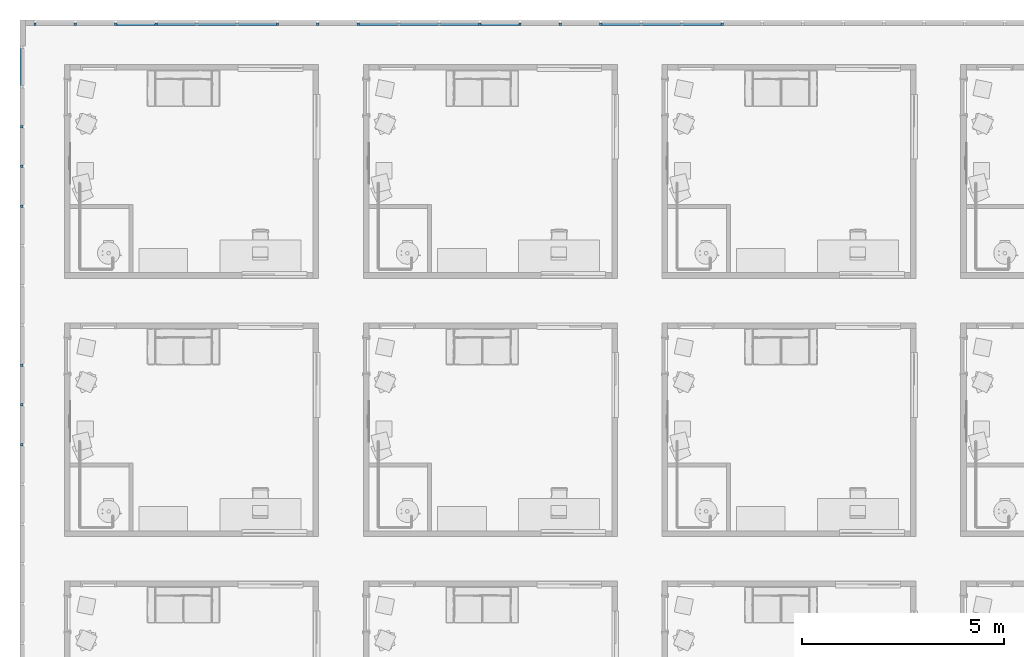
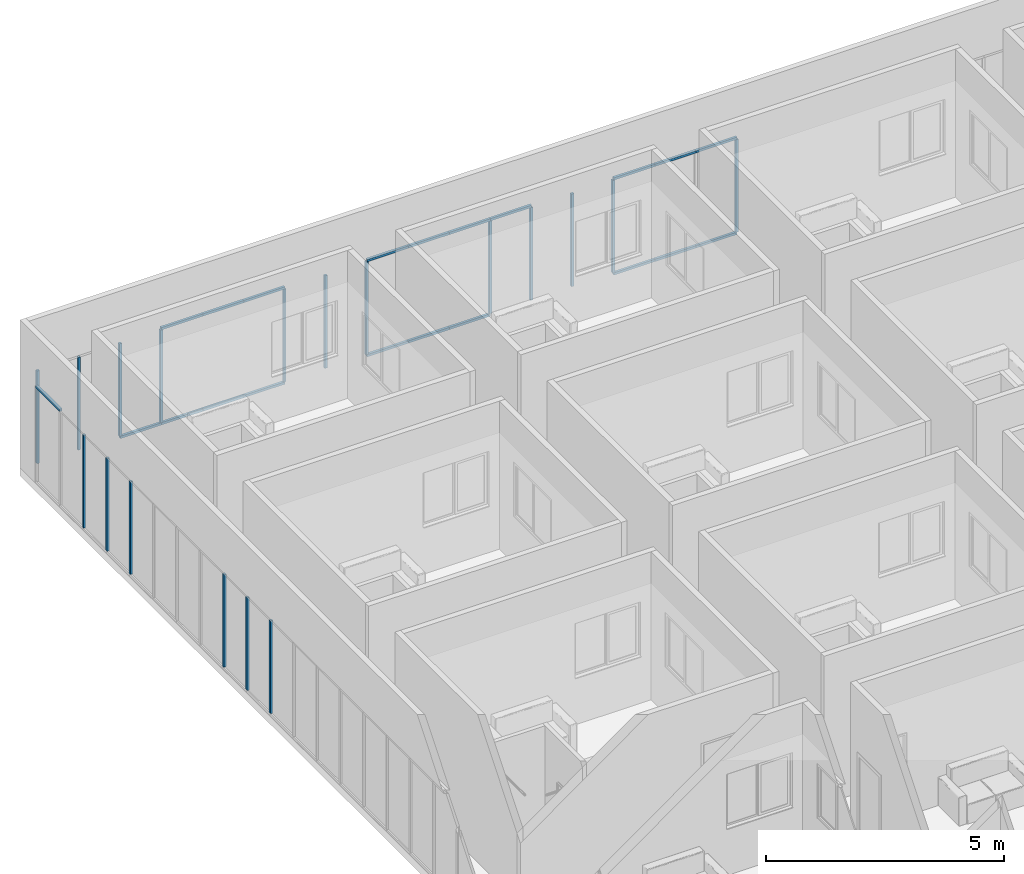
# One storey, part 2 of 72: 39 members, 2 elements without a shape of their own.
"""IFC4 building model written with IfcOpenShell, lengths in centimetres."""

from ifc_helpers import new_model, entity, si_unit, converted_unit, derived_unit, direction, frame, origin, place, context, subcontext, project, spatial, indexed_curve, outline, extrude, source, transform, mapped, material, type_object, type_shapes, element, aggregate, save


model = new_model("IFC4")

# Units and contexts
model_context = context("Model", 3, precision=0.001, world=origin(), true_north=direction((6.123233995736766e-17, 1.0)))
body_context = subcontext(model_context, "Body", "Model", "MODEL_VIEW")
ifc_project = project(units=[si_unit("LENGTHUNIT", "METRE", prefix="CENTI"), si_unit("AREAUNIT", "SQUARE_METRE"), si_unit("VOLUMEUNIT", "CUBIC_METRE"), derived_unit("THERMALTRANSMITTANCEUNIT", [(si_unit("MASSUNIT", "GRAM", prefix="KILO"), 1), (si_unit("THERMODYNAMICTEMPERATUREUNIT", "KELVIN"), -1), (si_unit("TIMEUNIT", "SECOND"), -3)]), converted_unit("PLANEANGLEUNIT", "DEGREE", entity("IfcPlaneAngleMeasure", 0.017453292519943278), si_unit("PLANEANGLEUNIT", "RADIAN"), dimensions=[0, 0, 0, 0, 0, 0, 0]), derived_unit("MASSDENSITYUNIT", [(si_unit("MASSUNIT", "GRAM", prefix="KILO"), 1), (si_unit("LENGTHUNIT", "METRE"), -3)]), derived_unit("VAPORPERMEABILITYUNIT", [(si_unit("LENGTHUNIT", "METRE"), -1), (si_unit("TIMEUNIT", "SECOND"), 1)]), derived_unit("USERDEFINED", [(si_unit("MASSUNIT", "GRAM", prefix="KILO"), 1), (si_unit("TIMEUNIT", "SECOND"), -3), (si_unit("LENGTHUNIT", "METRE"), 3), (si_unit("ELECTRICCURRENTUNIT", "AMPERE"), -2)]), derived_unit("SPECIFICHEATCAPACITYUNIT", [(si_unit("THERMODYNAMICTEMPERATUREUNIT", "KELVIN"), -1), (si_unit("LENGTHUNIT", "METRE"), 2), (si_unit("TIMEUNIT", "SECOND"), -2)]), derived_unit("THERMALCONDUCTANCEUNIT", [(si_unit("MASSUNIT", "GRAM", prefix="KILO"), 1), (si_unit("THERMODYNAMICTEMPERATUREUNIT", "KELVIN"), -1), (si_unit("TIMEUNIT", "SECOND"), -3), (si_unit("LENGTHUNIT", "METRE"), 1)]), si_unit("PRESSUREUNIT", "PASCAL"), derived_unit("MODULUSOFELASTICITYUNIT", [(si_unit("MASSUNIT", "GRAM", prefix="KILO"), 1), (si_unit("LENGTHUNIT", "METRE"), -1), (si_unit("TIMEUNIT", "SECOND"), -2)]), derived_unit("THERMALEXPANSIONCOEFFICIENTUNIT", [(si_unit("THERMODYNAMICTEMPERATUREUNIT", "KELVIN"), -1)])], contexts=[model_context])

# Site, building, storey
site_placement = place(None, origin())
site = spatial("IfcSite", under=ifc_project, at=site_placement, Name="Default", CompositionType="ELEMENT")
building_placement = place(site_placement, origin())
building = spatial("IfcBuilding", under=site, at=building_placement, Name="IDS Escape Game Building", CompositionType="ELEMENT")
storey_placement = place(building_placement, frame((0.0, 0.0, 800.0)))
storey = spatial("IfcBuildingStorey", under=building, at=storey_placement, Name="02_Second Floor", CompositionType="ELEMENT", Elevation=800.0)

# Curtain wall, members
curtain_wall_type = type_object("IfcCurtainWallType", Name="Curtain Wall:ARC_31.3_CWA_LIB_bandraam vast 100cm - profiel 60x60_gen_BERSnl", PredefinedType="NOTDEFINED")
curtain_wall_1_placement = place(storey_placement, frame((0.0, 0.0, -800.0)))
curtain_wall_1 = element("IfcCurtainWall", 1, at=curtain_wall_1_placement, inside=storey, type_object=curtain_wall_type, Name="Curtain Wall:ARC_31.3_CWA_LIB_bandraam vast 100cm - profiel 60x60_gen_BERSnl", ObjectType="Curtain Wall:ARC_31.3_CWA_LIB_bandraam vast 100cm - profiel 60x60_gen_BERSnl", PredefinedType="NOTDEFINED")
ifc_material = material(Name="<Unnamed>")
member_type_1 = type_object("IfcMemberType", Name="Rectangular Mullion:30-_Stijl_Rechthoek_Midden_B60xD60", PredefinedType="MULLION", material=ifc_material)
shared_shape_1 = source(origin(), body_context, "Body", "SweptSolid", [
    extrude(outline(indexed_curve([(-3.0, -3.0), (3.0, -3.0), (3.0, 3.0), (-3.0, 3.0), (-3.0, -3.0)], self_intersect=False)), frame((-3.0, 3.0, -99.84313725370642), z_axis=(0.0, 0.0, 1.0), x_axis=(-1.0, 0.0, 0.0)), (0.0, 0.0, 1.0), 99.84313725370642),
])
type_shapes(member_type_1, [shared_shape_1])
member_1_placement = place(curtain_wall_1_placement, frame((319.3725490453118, 3182.0, 1050.0), z_axis=(1.0, 0.0, 0.0), x_axis=(0.0, 0.0, 1.0)))
member_1 = element("IfcMember", 2, at=member_1_placement, type_object=member_type_1, material=ifc_material, Name="Rectangular Mullion:30-_Stijl_Rechthoek_Midden_B60xD60", ObjectType="Rectangular Mullion:30-_Stijl_Rechthoek_Midden_B60xD60", PredefinedType="MULLION", context=body_context, shape_type="MappedRepresentation", body=[
    mapped(shared_shape_1, transform((0.0, 0.0, 0.0), scale=1.0)),
])
member_2_placement = place(curtain_wall_1_placement, frame((419.2156862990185, 3182.0, 1050.0), z_axis=(1.0, 0.0, 0.0), x_axis=(0.0, 0.0, 1.0)))
member_2 = element("IfcMember", 3, at=member_2_placement, type_object=member_type_1, material=ifc_material, Name="Rectangular Mullion:30-_Stijl_Rechthoek_Midden_B60xD60", ObjectType="Rectangular Mullion:30-_Stijl_Rechthoek_Midden_B60xD60", PredefinedType="MULLION", context=body_context, shape_type="MappedRepresentation", body=[
    mapped(shared_shape_1, transform((0.0, 0.0, 0.0), scale=1.0)),
])
member_3_placement = place(curtain_wall_1_placement, frame((519.0588235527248, 3182.0, 1050.0), z_axis=(1.0, 0.0, 0.0), x_axis=(0.0, 0.0, 1.0)))
member_3 = element("IfcMember", 4, at=member_3_placement, type_object=member_type_1, material=ifc_material, Name="Rectangular Mullion:30-_Stijl_Rechthoek_Midden_B60xD60", ObjectType="Rectangular Mullion:30-_Stijl_Rechthoek_Midden_B60xD60", PredefinedType="MULLION", context=body_context, shape_type="MappedRepresentation", body=[
    mapped(shared_shape_1, transform((0.0, 0.0, 0.0), scale=1.0)),
])
member_4_placement = place(curtain_wall_1_placement, frame((818.5882353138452, 3182.0, 1050.0), z_axis=(1.0, 0.0, 0.0), x_axis=(0.0, 0.0, 1.0)))
member_4 = element("IfcMember", 5, at=member_4_placement, type_object=member_type_1, material=ifc_material, Name="Rectangular Mullion:30-_Stijl_Rechthoek_Midden_B60xD60", ObjectType="Rectangular Mullion:30-_Stijl_Rechthoek_Midden_B60xD60", PredefinedType="MULLION", context=body_context, shape_type="MappedRepresentation", body=[
    mapped(shared_shape_1, transform((0.0, 0.0, 0.0), scale=1.0)),
])
member_5_placement = place(curtain_wall_1_placement, frame((918.4313725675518, 3182.0, 1050.0), z_axis=(1.0, 0.0, 0.0), x_axis=(0.0, 0.0, 1.0)))
member_5 = element("IfcMember", 6, at=member_5_placement, type_object=member_type_1, material=ifc_material, Name="Rectangular Mullion:30-_Stijl_Rechthoek_Midden_B60xD60", ObjectType="Rectangular Mullion:30-_Stijl_Rechthoek_Midden_B60xD60", PredefinedType="MULLION", context=body_context, shape_type="MappedRepresentation", body=[
    mapped(shared_shape_1, transform((0.0, 0.0, 0.0), scale=1.0)),
])
member_6_placement = place(curtain_wall_1_placement, frame((1018.2745098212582, 3182.0, 1050.0), z_axis=(1.0, 0.0, 0.0), x_axis=(0.0, 0.0, 1.0)))
member_6 = element("IfcMember", 7, at=member_6_placement, type_object=member_type_1, material=ifc_material, Name="Rectangular Mullion:30-_Stijl_Rechthoek_Midden_B60xD60", ObjectType="Rectangular Mullion:30-_Stijl_Rechthoek_Midden_B60xD60", PredefinedType="MULLION", context=body_context, shape_type="MappedRepresentation", body=[
    mapped(shared_shape_1, transform((0.0, 0.0, 0.0), scale=1.0)),
])
member_7_placement = place(curtain_wall_1_placement, frame((1118.1176470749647, 3182.0, 1050.0), z_axis=(1.0, 0.0, 0.0), x_axis=(0.0, 0.0, 1.0)))
member_7 = element("IfcMember", 8, at=member_7_placement, type_object=member_type_1, material=ifc_material, Name="Rectangular Mullion:30-_Stijl_Rechthoek_Midden_B60xD60", ObjectType="Rectangular Mullion:30-_Stijl_Rechthoek_Midden_B60xD60", PredefinedType="MULLION", context=body_context, shape_type="MappedRepresentation", body=[
    mapped(shared_shape_1, transform((0.0, 0.0, 0.0), scale=1.0)),
])
member_8_placement = place(curtain_wall_1_placement, frame((1417.6470588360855, 3182.0, 1050.0), z_axis=(1.0, 0.0, 0.0), x_axis=(0.0, 0.0, 1.0)))
member_8 = element("IfcMember", 9, at=member_8_placement, type_object=member_type_1, material=ifc_material, Name="Rectangular Mullion:30-_Stijl_Rechthoek_Midden_B60xD60", ObjectType="Rectangular Mullion:30-_Stijl_Rechthoek_Midden_B60xD60", PredefinedType="MULLION", context=body_context, shape_type="MappedRepresentation", body=[
    mapped(shared_shape_1, transform((0.0, 0.0, 0.0), scale=1.0)),
])
member_9_placement = place(curtain_wall_1_placement, frame((1517.490196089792, 3182.0, 1050.0), z_axis=(1.0, 0.0, 0.0), x_axis=(0.0, 0.0, 1.0)))
member_9 = element("IfcMember", 10, at=member_9_placement, type_object=member_type_1, material=ifc_material, Name="Rectangular Mullion:30-_Stijl_Rechthoek_Midden_B60xD60", ObjectType="Rectangular Mullion:30-_Stijl_Rechthoek_Midden_B60xD60", PredefinedType="MULLION", context=body_context, shape_type="MappedRepresentation", body=[
    mapped(shared_shape_1, transform((0.0, 0.0, 0.0), scale=1.0)),
])
member_10_placement = place(curtain_wall_1_placement, frame((1617.3333333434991, 3182.0, 1050.0), z_axis=(1.0, 0.0, 0.0), x_axis=(0.0, 0.0, 1.0)))
member_10 = element("IfcMember", 11, at=member_10_placement, type_object=member_type_1, material=ifc_material, Name="Rectangular Mullion:30-_Stijl_Rechthoek_Midden_B60xD60", ObjectType="Rectangular Mullion:30-_Stijl_Rechthoek_Midden_B60xD60", PredefinedType="MULLION", context=body_context, shape_type="MappedRepresentation", body=[
    mapped(shared_shape_1, transform((0.0, 0.0, 0.0), scale=1.0)),
])
member_type_2 = type_object("IfcMemberType", Name="Rectangular Mullion:30-_Stijl_Rechthoek_Midden_B60xD60", PredefinedType="MULLION", material=ifc_material)
shared_shape_2 = source(origin(), body_context, "Body", "SweptSolid", [
    extrude(outline(indexed_curve([(-3.0, -3.0), (3.0, -3.0), (3.0, 3.0), (-3.0, 3.0), (-3.0, -3.0)], self_intersect=False)), frame((-3.0, 3.0, -99.84313725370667), z_axis=(0.0, 0.0, 1.0), x_axis=(-1.0, 0.0, 0.0)), (0.0, 0.0, 1.0), 99.84313725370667),
])
type_shapes(member_type_2, [shared_shape_2])
member_11_placement = place(curtain_wall_1_placement, frame((119.68627453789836, 3182.0, 800.0), z_axis=(-1.0, 0.0, 0.0), x_axis=(0.0, 0.0, -1.0)))
member_11 = element("IfcMember", 12, at=member_11_placement, type_object=member_type_2, material=ifc_material, Name="Rectangular Mullion:30-_Stijl_Rechthoek_Midden_B60xD60", ObjectType="Rectangular Mullion:30-_Stijl_Rechthoek_Midden_B60xD60", PredefinedType="MULLION", context=body_context, shape_type="MappedRepresentation", body=[
    mapped(shared_shape_2, transform((0.0, 0.0, 0.0), scale=1.0)),
])
member_12_placement = place(curtain_wall_1_placement, frame((219.529411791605, 3182.0, 800.0), z_axis=(-1.0, 0.0, 0.0), x_axis=(0.0, 0.0, -1.0)))
member_12 = element("IfcMember", 13, at=member_12_placement, type_object=member_type_2, material=ifc_material, Name="Rectangular Mullion:30-_Stijl_Rechthoek_Midden_B60xD60", ObjectType="Rectangular Mullion:30-_Stijl_Rechthoek_Midden_B60xD60", PredefinedType="MULLION", context=body_context, shape_type="MappedRepresentation", body=[
    mapped(shared_shape_2, transform((0.0, 0.0, 0.0), scale=1.0)),
])
member_13_placement = place(curtain_wall_1_placement, frame((319.3725490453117, 3182.0, 800.0), z_axis=(-1.0, 0.0, 0.0), x_axis=(0.0, 0.0, -1.0)))
member_13 = element("IfcMember", 14, at=member_13_placement, type_object=member_type_2, material=ifc_material, Name="Rectangular Mullion:30-_Stijl_Rechthoek_Midden_B60xD60", ObjectType="Rectangular Mullion:30-_Stijl_Rechthoek_Midden_B60xD60", PredefinedType="MULLION", context=body_context, shape_type="MappedRepresentation", body=[
    mapped(shared_shape_2, transform((0.0, 0.0, 0.0), scale=1.0)),
])
member_14_placement = place(curtain_wall_1_placement, frame((419.2156862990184, 3182.0, 800.0), z_axis=(-1.0, 0.0, 0.0), x_axis=(0.0, 0.0, -1.0)))
member_14 = element("IfcMember", 15, at=member_14_placement, type_object=member_type_2, material=ifc_material, Name="Rectangular Mullion:30-_Stijl_Rechthoek_Midden_B60xD60", ObjectType="Rectangular Mullion:30-_Stijl_Rechthoek_Midden_B60xD60", PredefinedType="MULLION", context=body_context, shape_type="MappedRepresentation", body=[
    mapped(shared_shape_2, transform((0.0, 0.0, 0.0), scale=1.0)),
])
member_15_placement = place(curtain_wall_1_placement, frame((718.7450980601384, 3182.0, 800.0), z_axis=(-1.0, 0.0, 0.0), x_axis=(0.0, 0.0, -1.0)))
member_15 = element("IfcMember", 16, at=member_15_placement, type_object=member_type_2, material=ifc_material, Name="Rectangular Mullion:30-_Stijl_Rechthoek_Midden_B60xD60", ObjectType="Rectangular Mullion:30-_Stijl_Rechthoek_Midden_B60xD60", PredefinedType="MULLION", context=body_context, shape_type="MappedRepresentation", body=[
    mapped(shared_shape_2, transform((0.0, 0.0, 0.0), scale=1.0)),
])
member_16_placement = place(curtain_wall_1_placement, frame((818.5882353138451, 3182.0, 800.0), z_axis=(-1.0, 0.0, 0.0), x_axis=(0.0, 0.0, -1.0)))
member_16 = element("IfcMember", 17, at=member_16_placement, type_object=member_type_2, material=ifc_material, Name="Rectangular Mullion:30-_Stijl_Rechthoek_Midden_B60xD60", ObjectType="Rectangular Mullion:30-_Stijl_Rechthoek_Midden_B60xD60", PredefinedType="MULLION", context=body_context, shape_type="MappedRepresentation", body=[
    mapped(shared_shape_2, transform((0.0, 0.0, 0.0), scale=1.0)),
])
member_17_placement = place(curtain_wall_1_placement, frame((918.4313725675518, 3182.0, 800.0), z_axis=(-1.0, 0.0, 0.0), x_axis=(0.0, 0.0, -1.0)))
member_17 = element("IfcMember", 18, at=member_17_placement, type_object=member_type_2, material=ifc_material, Name="Rectangular Mullion:30-_Stijl_Rechthoek_Midden_B60xD60", ObjectType="Rectangular Mullion:30-_Stijl_Rechthoek_Midden_B60xD60", PredefinedType="MULLION", context=body_context, shape_type="MappedRepresentation", body=[
    mapped(shared_shape_2, transform((0.0, 0.0, 0.0), scale=1.0)),
])
member_18_placement = place(curtain_wall_1_placement, frame((1317.8039215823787, 3182.0, 800.0), z_axis=(-1.0, 0.0, 0.0), x_axis=(0.0, 0.0, -1.0)))
member_18 = element("IfcMember", 19, at=member_18_placement, type_object=member_type_2, material=ifc_material, Name="Rectangular Mullion:30-_Stijl_Rechthoek_Midden_B60xD60", ObjectType="Rectangular Mullion:30-_Stijl_Rechthoek_Midden_B60xD60", PredefinedType="MULLION", context=body_context, shape_type="MappedRepresentation", body=[
    mapped(shared_shape_2, transform((0.0, 0.0, 0.0), scale=1.0)),
])
member_19_placement = place(curtain_wall_1_placement, frame((1417.6470588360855, 3182.0, 800.0), z_axis=(-1.0, 0.0, 0.0), x_axis=(0.0, 0.0, -1.0)))
member_19 = element("IfcMember", 20, at=member_19_placement, type_object=member_type_2, material=ifc_material, Name="Rectangular Mullion:30-_Stijl_Rechthoek_Midden_B60xD60", ObjectType="Rectangular Mullion:30-_Stijl_Rechthoek_Midden_B60xD60", PredefinedType="MULLION", context=body_context, shape_type="MappedRepresentation", body=[
    mapped(shared_shape_2, transform((0.0, 0.0, 0.0), scale=1.0)),
])
member_20_placement = place(curtain_wall_1_placement, frame((1517.4901960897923, 3182.0, 800.0), z_axis=(-1.0, 0.0, 0.0), x_axis=(0.0, 0.0, -1.0)))
member_20 = element("IfcMember", 21, at=member_20_placement, type_object=member_type_2, material=ifc_material, Name="Rectangular Mullion:30-_Stijl_Rechthoek_Midden_B60xD60", ObjectType="Rectangular Mullion:30-_Stijl_Rechthoek_Midden_B60xD60", PredefinedType="MULLION", context=body_context, shape_type="MappedRepresentation", body=[
    mapped(shared_shape_2, transform((0.0, 0.0, 0.0), scale=1.0)),
])
member_type_3 = type_object("IfcMemberType", Name="Rectangular Mullion:30-_Stijl_Rechthoek_Midden_B60xD60", PredefinedType="MULLION", material=ifc_material)
shared_shape_3 = source(origin(), body_context, "Body", "SweptSolid", [
    extrude(outline(indexed_curve([(-3.0, -3.0), (3.0, -3.0), (3.0, 3.0), (-3.0, 3.0), (-3.0, -3.0)], self_intersect=False)), frame((-3.0, 3.0, -238.0), z_axis=(0.0, 0.0, 1.0), x_axis=(-1.0, 0.0, 0.0)), (0.0, 0.0, 1.0), 238.00000000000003),
])
type_shapes(member_type_3, [shared_shape_3])
member_21_placement = place(curtain_wall_1_placement, frame((-83.0, 3182.0, 1044.0), z_axis=(0.0, 0.0, 1.0), x_axis=(-1.0, 0.0, 0.0)))
member_21 = element("IfcMember", 22, at=member_21_placement, type_object=member_type_3, material=ifc_material, Name="Rectangular Mullion:30-_Stijl_Rechthoek_Midden_B60xD60", ObjectType="Rectangular Mullion:30-_Stijl_Rechthoek_Midden_B60xD60", PredefinedType="MULLION", context=body_context, shape_type="MappedRepresentation", body=[
    mapped(shared_shape_3, transform((0.0, 0.0, 0.0), scale=1.0)),
])
member_type_4 = type_object("IfcMemberType", Name="Rectangular Mullion:30-_Stijl_Rechthoek_Midden_B60xD60", PredefinedType="MULLION", material=ifc_material)
shared_shape_4 = source(origin(), body_context, "Body", "SweptSolid", [
    extrude(outline(indexed_curve([(-3.0, -3.0), (3.0, -3.0), (3.0, 3.0), (-3.0, 3.0), (-3.0, -3.0)], self_intersect=False)), frame((0.0, 3.0, -238.0), z_axis=(0.0, 0.0, 1.0), x_axis=(-1.0, 0.0, 0.0)), (0.0, 0.0, 1.0), 238.00000000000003),
])
type_shapes(member_type_4, [shared_shape_4])
member_22_placement = place(curtain_wall_1_placement, frame((19.843137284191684, 3182.0, 806.0), z_axis=(0.0, 0.0, -1.0), x_axis=(1.0, 0.0, 0.0)))
member_22 = element("IfcMember", 23, at=member_22_placement, type_object=member_type_4, material=ifc_material, Name="Rectangular Mullion:30-_Stijl_Rechthoek_Midden_B60xD60", ObjectType="Rectangular Mullion:30-_Stijl_Rechthoek_Midden_B60xD60", PredefinedType="MULLION", context=body_context, shape_type="MappedRepresentation", body=[
    mapped(shared_shape_4, transform((0.0, 0.0, 0.0), scale=1.0)),
])
member_23_placement = place(curtain_wall_1_placement, frame((119.68627453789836, 3182.0, 806.0), z_axis=(0.0, 0.0, -1.0), x_axis=(1.0, 0.0, 0.0)))
member_23 = element("IfcMember", 24, at=member_23_placement, type_object=member_type_4, material=ifc_material, Name="Rectangular Mullion:30-_Stijl_Rechthoek_Midden_B60xD60", ObjectType="Rectangular Mullion:30-_Stijl_Rechthoek_Midden_B60xD60", PredefinedType="MULLION", context=body_context, shape_type="MappedRepresentation", body=[
    mapped(shared_shape_4, transform((0.0, 0.0, 0.0), scale=1.0)),
])
member_24_placement = place(curtain_wall_1_placement, frame((219.52941179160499, 3182.0, 806.0), z_axis=(0.0, 0.0, -1.0), x_axis=(1.0, 0.0, 0.0)))
member_24 = element("IfcMember", 25, at=member_24_placement, type_object=member_type_4, material=ifc_material, Name="Rectangular Mullion:30-_Stijl_Rechthoek_Midden_B60xD60", ObjectType="Rectangular Mullion:30-_Stijl_Rechthoek_Midden_B60xD60", PredefinedType="MULLION", context=body_context, shape_type="MappedRepresentation", body=[
    mapped(shared_shape_4, transform((0.0, 0.0, 0.0), scale=1.0)),
])
member_25_placement = place(curtain_wall_1_placement, frame((519.0588235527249, 3182.0, 806.0), z_axis=(0.0, 0.0, -1.0), x_axis=(1.0, 0.0, 0.0)))
member_25 = element("IfcMember", 26, at=member_25_placement, type_object=member_type_4, material=ifc_material, Name="Rectangular Mullion:30-_Stijl_Rechthoek_Midden_B60xD60", ObjectType="Rectangular Mullion:30-_Stijl_Rechthoek_Midden_B60xD60", PredefinedType="MULLION", context=body_context, shape_type="MappedRepresentation", body=[
    mapped(shared_shape_4, transform((0.0, 0.0, 0.0), scale=1.0)),
])
member_26_placement = place(curtain_wall_1_placement, frame((618.9019608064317, 3182.0, 806.0), z_axis=(0.0, 0.0, -1.0), x_axis=(1.0, 0.0, 0.0)))
member_26 = element("IfcMember", 27, at=member_26_placement, type_object=member_type_4, material=ifc_material, Name="Rectangular Mullion:30-_Stijl_Rechthoek_Midden_B60xD60", ObjectType="Rectangular Mullion:30-_Stijl_Rechthoek_Midden_B60xD60", PredefinedType="MULLION", context=body_context, shape_type="MappedRepresentation", body=[
    mapped(shared_shape_4, transform((0.0, 0.0, 0.0), scale=1.0)),
])
member_27_placement = place(curtain_wall_1_placement, frame((718.7450980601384, 3182.0, 806.0), z_axis=(0.0, 0.0, -1.0), x_axis=(1.0, 0.0, 0.0)))
member_27 = element("IfcMember", 28, at=member_27_placement, type_object=member_type_4, material=ifc_material, Name="Rectangular Mullion:30-_Stijl_Rechthoek_Midden_B60xD60", ObjectType="Rectangular Mullion:30-_Stijl_Rechthoek_Midden_B60xD60", PredefinedType="MULLION", context=body_context, shape_type="MappedRepresentation", body=[
    mapped(shared_shape_4, transform((0.0, 0.0, 0.0), scale=1.0)),
])
member_28_placement = place(curtain_wall_1_placement, frame((1018.2745098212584, 3182.0, 806.0), z_axis=(0.0, 0.0, -1.0), x_axis=(1.0, 0.0, 0.0)))
member_28 = element("IfcMember", 29, at=member_28_placement, type_object=member_type_4, material=ifc_material, Name="Rectangular Mullion:30-_Stijl_Rechthoek_Midden_B60xD60", ObjectType="Rectangular Mullion:30-_Stijl_Rechthoek_Midden_B60xD60", PredefinedType="MULLION", context=body_context, shape_type="MappedRepresentation", body=[
    mapped(shared_shape_4, transform((0.0, 0.0, 0.0), scale=1.0)),
])
member_29_placement = place(curtain_wall_1_placement, frame((1118.1176470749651, 3182.0, 806.0), z_axis=(0.0, 0.0, -1.0), x_axis=(1.0, 0.0, 0.0)))
member_29 = element("IfcMember", 30, at=member_29_placement, type_object=member_type_4, material=ifc_material, Name="Rectangular Mullion:30-_Stijl_Rechthoek_Midden_B60xD60", ObjectType="Rectangular Mullion:30-_Stijl_Rechthoek_Midden_B60xD60", PredefinedType="MULLION", context=body_context, shape_type="MappedRepresentation", body=[
    mapped(shared_shape_4, transform((0.0, 0.0, 0.0), scale=1.0)),
])
member_30_placement = place(curtain_wall_1_placement, frame((1217.960784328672, 3182.0, 806.0), z_axis=(0.0, 0.0, -1.0), x_axis=(1.0, 0.0, 0.0)))
member_30 = element("IfcMember", 31, at=member_30_placement, type_object=member_type_4, material=ifc_material, Name="Rectangular Mullion:30-_Stijl_Rechthoek_Midden_B60xD60", ObjectType="Rectangular Mullion:30-_Stijl_Rechthoek_Midden_B60xD60", PredefinedType="MULLION", context=body_context, shape_type="MappedRepresentation", body=[
    mapped(shared_shape_4, transform((0.0, 0.0, 0.0), scale=1.0)),
])
member_31_placement = place(curtain_wall_1_placement, frame((1317.8039215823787, 3182.0, 806.0), z_axis=(0.0, 0.0, -1.0), x_axis=(1.0, 0.0, 0.0)))
member_31 = element("IfcMember", 32, at=member_31_placement, type_object=member_type_4, material=ifc_material, Name="Rectangular Mullion:30-_Stijl_Rechthoek_Midden_B60xD60", ObjectType="Rectangular Mullion:30-_Stijl_Rechthoek_Midden_B60xD60", PredefinedType="MULLION", context=body_context, shape_type="MappedRepresentation", body=[
    mapped(shared_shape_4, transform((0.0, 0.0, 0.0), scale=1.0)),
])
member_32_placement = place(curtain_wall_1_placement, frame((1617.3333333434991, 3182.0, 806.0), z_axis=(0.0, 0.0, -1.0), x_axis=(1.0, 0.0, 0.0)))
member_32 = element("IfcMember", 33, at=member_32_placement, type_object=member_type_4, material=ifc_material, Name="Rectangular Mullion:30-_Stijl_Rechthoek_Midden_B60xD60", ObjectType="Rectangular Mullion:30-_Stijl_Rechthoek_Midden_B60xD60", PredefinedType="MULLION", context=body_context, shape_type="MappedRepresentation", body=[
    mapped(shared_shape_4, transform((0.0, 0.0, 0.0), scale=1.0)),
])
aggregate(curtain_wall_1, [member_1, member_2, member_3, member_4, member_5, member_6, member_7, member_8, member_9, member_10, member_11, member_12, member_13, member_14, member_15, member_16, member_17, member_18, member_19, member_20, member_21, member_22, member_23, member_24, member_25, member_26, member_27, member_28, member_29, member_30, member_31, member_32])

curtain_wall_2_placement = place(storey_placement, frame((0.0, 0.0, -800.0)))
curtain_wall_2 = element("IfcCurtainWall", 34, at=curtain_wall_2_placement, inside=storey, type_object=curtain_wall_type, Name="Curtain Wall:ARC_31.3_CWA_LIB_bandraam vast 100cm - profiel 60x60_gen_BERSnl", ObjectType="Curtain Wall:ARC_31.3_CWA_LIB_bandraam vast 100cm - profiel 60x60_gen_BERSnl", PredefinedType="NOTDEFINED")
member_33_placement = place(curtain_wall_2_placement, frame((-110.0, 2925.61290319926, 806.0), z_axis=(0.0, 0.0, -1.0), x_axis=(0.0, -1.0, 0.0)))
member_33 = element("IfcMember", 35, at=member_33_placement, type_object=member_type_4, material=ifc_material, Name="Rectangular Mullion:30-_Stijl_Rechthoek_Midden_B60xD60", ObjectType="Rectangular Mullion:30-_Stijl_Rechthoek_Midden_B60xD60", PredefinedType="MULLION", context=body_context, shape_type="MappedRepresentation", body=[
    mapped(shared_shape_4, transform((0.0, 0.0, 0.0), scale=1.0)),
])
member_34_placement = place(curtain_wall_2_placement, frame((-110.0, 2827.4193548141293, 806.0), z_axis=(0.0, 0.0, -1.0), x_axis=(0.0, -1.0, 0.0)))
member_34 = element("IfcMember", 36, at=member_34_placement, type_object=member_type_4, material=ifc_material, Name="Rectangular Mullion:30-_Stijl_Rechthoek_Midden_B60xD60", ObjectType="Rectangular Mullion:30-_Stijl_Rechthoek_Midden_B60xD60", PredefinedType="MULLION", context=body_context, shape_type="MappedRepresentation", body=[
    mapped(shared_shape_4, transform((0.0, 0.0, 0.0), scale=1.0)),
])
member_35_placement = place(curtain_wall_2_placement, frame((-110.0, 2729.2258064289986, 806.0), z_axis=(0.0, 0.0, -1.0), x_axis=(0.0, -1.0, 0.0)))
member_35 = element("IfcMember", 37, at=member_35_placement, type_object=member_type_4, material=ifc_material, Name="Rectangular Mullion:30-_Stijl_Rechthoek_Midden_B60xD60", ObjectType="Rectangular Mullion:30-_Stijl_Rechthoek_Midden_B60xD60", PredefinedType="MULLION", context=body_context, shape_type="MappedRepresentation", body=[
    mapped(shared_shape_4, transform((0.0, 0.0, 0.0), scale=1.0)),
])
member_36_placement = place(curtain_wall_2_placement, frame((-110.0, 2336.4516128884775, 806.0), z_axis=(0.0, 0.0, -1.0), x_axis=(0.0, -1.0, 0.0)))
member_36 = element("IfcMember", 38, at=member_36_placement, type_object=member_type_4, material=ifc_material, Name="Rectangular Mullion:30-_Stijl_Rechthoek_Midden_B60xD60", ObjectType="Rectangular Mullion:30-_Stijl_Rechthoek_Midden_B60xD60", PredefinedType="MULLION", context=body_context, shape_type="MappedRepresentation", body=[
    mapped(shared_shape_4, transform((0.0, 0.0, 0.0), scale=1.0)),
])
member_37_placement = place(curtain_wall_2_placement, frame((-110.0, 2238.258064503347, 806.0), z_axis=(0.0, 0.0, -1.0), x_axis=(0.0, -1.0, 0.0)))
member_37 = element("IfcMember", 39, at=member_37_placement, type_object=member_type_4, material=ifc_material, Name="Rectangular Mullion:30-_Stijl_Rechthoek_Midden_B60xD60", ObjectType="Rectangular Mullion:30-_Stijl_Rechthoek_Midden_B60xD60", PredefinedType="MULLION", context=body_context, shape_type="MappedRepresentation", body=[
    mapped(shared_shape_4, transform((0.0, 0.0, 0.0), scale=1.0)),
])
member_38_placement = place(curtain_wall_2_placement, frame((-110.0, 2140.0645161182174, 806.0), z_axis=(0.0, 0.0, -1.0), x_axis=(0.0, -1.0, 0.0)))
member_38 = element("IfcMember", 40, at=member_38_placement, type_object=member_type_4, material=ifc_material, Name="Rectangular Mullion:30-_Stijl_Rechthoek_Midden_B60xD60", ObjectType="Rectangular Mullion:30-_Stijl_Rechthoek_Midden_B60xD60", PredefinedType="MULLION", context=body_context, shape_type="MappedRepresentation", body=[
    mapped(shared_shape_4, transform((0.0, 0.0, 0.0), scale=1.0)),
])
member_type_5 = type_object("IfcMemberType", Name="Rectangular Mullion:30-_Stijl_Rechthoek_Midden_B60xD60", PredefinedType="MULLION", material=ifc_material)
shared_shape_5 = source(origin(), body_context, "Body", "SweptSolid", [
    extrude(outline(indexed_curve([(-3.0, -3.0), (3.0, -3.0), (3.0, 3.0), (-3.0, 3.0), (-3.0, -3.0)], self_intersect=False)), frame((-3.0, 3.0, -101.1935484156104), z_axis=(0.0, 0.0, 1.0), x_axis=(-1.0, 0.0, 0.0)), (0.0, 0.0, 1.0), 101.1935484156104),
])
type_shapes(member_type_5, [shared_shape_5])
member_39_placement = place(curtain_wall_2_placement, frame((-110.0, 3023.80645158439, 1050.0), z_axis=(0.0, -1.0, 0.0), x_axis=(0.0, 0.0, 1.0)))
member_39 = element("IfcMember", 41, at=member_39_placement, type_object=member_type_5, material=ifc_material, Name="Rectangular Mullion:30-_Stijl_Rechthoek_Midden_B60xD60", ObjectType="Rectangular Mullion:30-_Stijl_Rechthoek_Midden_B60xD60", PredefinedType="MULLION", context=body_context, shape_type="MappedRepresentation", body=[
    mapped(shared_shape_5, transform((0.0, 0.0, 0.0), scale=1.0)),
])
aggregate(curtain_wall_2, [member_39, member_33, member_34, member_35, member_36, member_37, member_38])

save(model, "model.ifc")
